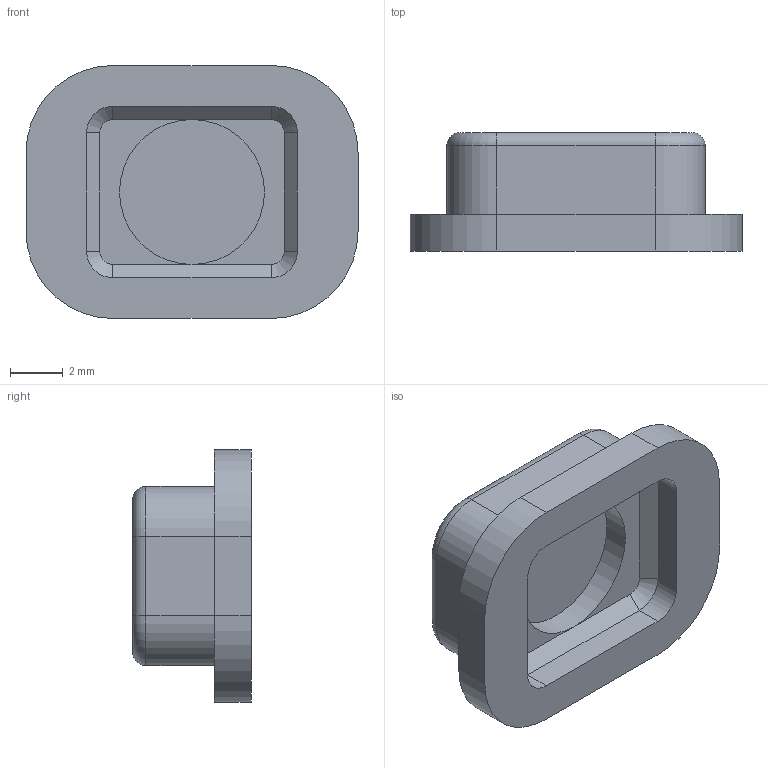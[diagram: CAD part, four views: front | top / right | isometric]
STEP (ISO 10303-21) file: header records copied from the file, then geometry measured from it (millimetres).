
FILE_DESCRIPTION(/* description */ ('STEP AP242','CAx-IF Rec.Pracs.---Representation and Presentation of Product Manufacturing Information (PMI)---4.0---2014-10-13','CAx-IF Rec.Pracs.---3D Tessellated Geometry---0.4---2014-09-14','2;1'),/* implementation_level */ '2;1');
FILE_NAME(/* name */ '687e69aff344454910d476eb',/* time_stamp */ '2025-07-21T16:24:16Z',/* author */ (''),/* organization */ (''),/* preprocessor_version */ 'ST-DEVELOPER v20',/* originating_system */ 'ONSHAPE BY PTC INC, 1.201',/* authorisation */ ' ');
FILE_SCHEMA (('AP242_MANAGED_MODEL_BASED_3D_ENGINEERING_MIM_LF { 1 0 10303 442 1 1 4 }'));
Length unit declared in the file: metre
Products named in the file (1): Part 4
Bounding box: 12.6 x 4.5 x 9.6 mm (x, y, z)
Volume: 251.9 mm3; surface area: 419.3 mm2
Topology: 1 solids, 1 shells, 80 faces, 206 edges, 131 vertices
Faces by surface type: plane 39, cylinder 33, torus 4, cone 4
Full cylindrical faces by diameter (mm): 5.5 x1
Entity records: 2450 total; most frequent: DIRECTION 442, CARTESIAN_POINT 417, ORIENTED_EDGE 410, EDGE_CURVE 205, AXIS2_PLACEMENT_3D 156, VERTEX_POINT 131, LINE 130, VECTOR 130
